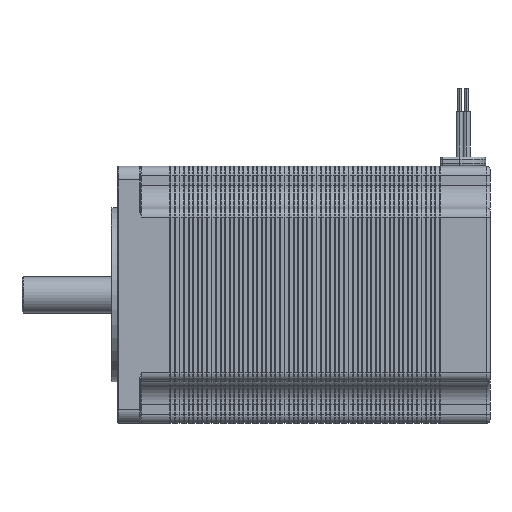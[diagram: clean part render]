
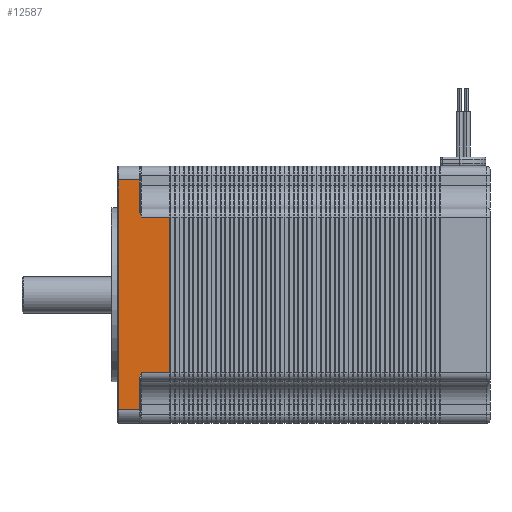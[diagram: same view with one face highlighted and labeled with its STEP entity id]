
A CAD part, left-side view. The second image highlights one B-rep face of the part: STEP entity #12587.
In plain terms, the highlighted planar face has unit normal (-1, 0, 0).
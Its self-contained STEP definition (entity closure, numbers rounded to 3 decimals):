
#138 = CARTESIAN_POINT ( 'NONE',  ( -28.15, 76.7, -18.265 ) ) ;
#2413 = CARTESIAN_POINT ( 'NONE',  ( -28.15, 76.7, -17. ) ) ;
#2839 = CARTESIAN_POINT ( 'NONE',  ( -28.15, 81.5, 17. ) ) ;
#7777 = VERTEX_POINT ( 'NONE', #59826 ) ;
#9357 = CARTESIAN_POINT ( 'NONE',  ( -28.15, 76.3, -17. ) ) ;
#11648 = LINE ( 'NONE', #2413, #194329 ) ;
#12587 = ADVANCED_FACE ( 'NONE', ( #67647 ), #117011, .F. ) ;
#15578 = B_SPLINE_CURVE_WITH_KNOTS ( 'NONE', 3,
 ( #172071, #110215, #96745, #126368, #174052, #18156 ),
 .UNSPECIFIED., .F., .F.,
 ( 4, 2, 4 ),
 ( 0., 0.001, 0.001 ),
 .UNSPECIFIED. ) ;
#18156 = CARTESIAN_POINT ( 'NONE',  ( -28.15, 76.7, 18.265 ) ) ;
#18775 = EDGE_CURVE ( 'NONE', #165746, #59274, #173441, .T. ) ;
#19254 = EDGE_CURVE ( 'NONE', #153721, #133420, #84201, .T. ) ;
#25215 = CARTESIAN_POINT ( 'NONE',  ( -28.15, 70.1, -17. ) ) ;
#25840 = ORIENTED_EDGE ( 'NONE', *, *, #131642, .T. ) ;
#26589 = VECTOR ( 'NONE', #151736, 1000. ) ;
#26686 = CARTESIAN_POINT ( 'NONE',  ( -28.15, 76.7, -25.15 ) ) ;
#37426 = LINE ( 'NONE', #89253, #148108 ) ;
#53697 = ORIENTED_EDGE ( 'NONE', *, *, #181976, .T. ) ;
#55995 = VERTEX_POINT ( 'NONE', #60160 ) ;
#56281 = CARTESIAN_POINT ( 'NONE',  ( -28.15, 76.491, -17.403 ) ) ;
#58857 = DIRECTION ( 'NONE',  ( 0., 0., -1. ) ) ;
#59274 = VERTEX_POINT ( 'NONE', #198433 ) ;
#59826 = CARTESIAN_POINT ( 'NONE',  ( -28.15, 76.7, 18.265 ) ) ;
#60160 = CARTESIAN_POINT ( 'NONE',  ( -28.15, 76.3, 17. ) ) ;
#60265 = EDGE_CURVE ( 'NONE', #165746, #89907, #169327, .T. ) ;
#62694 = CARTESIAN_POINT ( 'NONE',  ( -28.15, 70.1, -17. ) ) ;
#62985 = LINE ( 'NONE', #121638, #135176 ) ;
#67446 = ORIENTED_EDGE ( 'NONE', *, *, #71773, .T. ) ;
#67647 = FACE_OUTER_BOUND ( 'NONE', #100391, .T. ) ;
#68844 = EDGE_CURVE ( 'NONE', #55995, #133420, #185985, .T. ) ;
#69340 = CARTESIAN_POINT ( 'NONE',  ( -28.15, 81.5, -17. ) ) ;
#69829 = CARTESIAN_POINT ( 'NONE',  ( -28.15, 76.7, -18.04 ) ) ;
#70446 = VECTOR ( 'NONE', #127906, 1000. ) ;
#71773 = EDGE_CURVE ( 'NONE', #55995, #7777, #15578, .T. ) ;
#75710 = VECTOR ( 'NONE', #178475, 1000. ) ;
#77748 = ORIENTED_EDGE ( 'NONE', *, *, #179579, .T. ) ;
#78298 = DIRECTION ( 'NONE',  ( 0., 0., 1. ) ) ;
#82066 = ORIENTED_EDGE ( 'NONE', *, *, #60265, .T. ) ;
#84201 = LINE ( 'NONE', #25215, #136987 ) ;
#87790 = CARTESIAN_POINT ( 'NONE',  ( -28.15, 76.7, -17. ) ) ;
#89253 = CARTESIAN_POINT ( 'NONE',  ( -28.15, 81.3, -25.15 ) ) ;
#89907 = VERTEX_POINT ( 'NONE', #138 ) ;
#90235 = B_SPLINE_CURVE_WITH_KNOTS ( 'NONE', 3,
 ( #162527, #69829, #193377, #56281, #101389, #9357 ),
 .UNSPECIFIED., .F., .F.,
 ( 4, 2, 4 ),
 ( 0., 0.001, 0.001 ),
 .UNSPECIFIED. ) ;
#96745 = CARTESIAN_POINT ( 'NONE',  ( -28.15, 76.491, 17.403 ) ) ;
#100391 = EDGE_LOOP ( 'NONE', ( #77748, #159649, #143960, #82066, #163366, #25840, #125937, #114272, #67446, #53697 ) ) ;
#101389 = CARTESIAN_POINT ( 'NONE',  ( -28.15, 76.395, -17.201 ) ) ;
#101874 = DIRECTION ( 'NONE',  ( 0., 0., 1. ) ) ;
#102748 = DIRECTION ( 'NONE',  ( 0., 1., 0. ) ) ;
#110215 = CARTESIAN_POINT ( 'NONE',  ( -28.15, 76.395, 17.202 ) ) ;
#112005 = VERTEX_POINT ( 'NONE', #119131 ) ;
#112834 = AXIS2_PLACEMENT_3D ( 'NONE', #69340, #133839, #131211 ) ;
#114272 = ORIENTED_EDGE ( 'NONE', *, *, #68844, .F. ) ;
#114340 = CARTESIAN_POINT ( 'NONE',  ( -28.15, 70.1, 17. ) ) ;
#117011 = PLANE ( 'NONE',  #112834 ) ;
#117628 = EDGE_CURVE ( 'NONE', #89907, #147230, #90235, .T. ) ;
#119131 = CARTESIAN_POINT ( 'NONE',  ( -28.15, 76.7, 25.15 ) ) ;
#121638 = CARTESIAN_POINT ( 'NONE',  ( -28.15, 76.5, 25.15 ) ) ;
#124237 = VERTEX_POINT ( 'NONE', #195820 ) ;
#125121 = DIRECTION ( 'NONE',  ( 0., -1., 0. ) ) ;
#125937 = ORIENTED_EDGE ( 'NONE', *, *, #19254, .T. ) ;
#126368 = CARTESIAN_POINT ( 'NONE',  ( -28.15, 76.642, 17.823 ) ) ;
#127906 = DIRECTION ( 'NONE',  ( 0., -1., 0. ) ) ;
#131211 = DIRECTION ( 'NONE',  ( 0., 0., -1. ) ) ;
#131642 = EDGE_CURVE ( 'NONE', #147230, #153721, #142749, .T. ) ;
#133420 = VERTEX_POINT ( 'NONE', #114340 ) ;
#133839 = DIRECTION ( 'NONE',  ( 1., 0., 0. ) ) ;
#135176 = VECTOR ( 'NONE', #102748, 1000. ) ;
#135498 = VECTOR ( 'NONE', #125121, 1000. ) ;
#135636 = CARTESIAN_POINT ( 'NONE',  ( -28.15, 76.5, -25.15 ) ) ;
#136987 = VECTOR ( 'NONE', #101874, 1000. ) ;
#142749 = LINE ( 'NONE', #185064, #70446 ) ;
#143960 = ORIENTED_EDGE ( 'NONE', *, *, #18775, .F. ) ;
#147230 = VERTEX_POINT ( 'NONE', #176075 ) ;
#148108 = VECTOR ( 'NONE', #58857, 1000. ) ;
#151736 = DIRECTION ( 'NONE',  ( 0., 1., 0. ) ) ;
#153721 = VERTEX_POINT ( 'NONE', #62694 ) ;
#159649 = ORIENTED_EDGE ( 'NONE', *, *, #178332, .T. ) ;
#162527 = CARTESIAN_POINT ( 'NONE',  ( -28.15, 76.7, -18.265 ) ) ;
#163366 = ORIENTED_EDGE ( 'NONE', *, *, #117628, .T. ) ;
#165746 = VERTEX_POINT ( 'NONE', #26686 ) ;
#169327 = LINE ( 'NONE', #87790, #75710 ) ;
#172071 = CARTESIAN_POINT ( 'NONE',  ( -28.15, 76.3, 17. ) ) ;
#173441 = LINE ( 'NONE', #135636, #26589 ) ;
#174052 = CARTESIAN_POINT ( 'NONE',  ( -28.15, 76.7, 18.04 ) ) ;
#176075 = CARTESIAN_POINT ( 'NONE',  ( -28.15, 76.3, -17. ) ) ;
#178332 = EDGE_CURVE ( 'NONE', #124237, #59274, #37426, .T. ) ;
#178475 = DIRECTION ( 'NONE',  ( 0., 0., 1. ) ) ;
#179579 = EDGE_CURVE ( 'NONE', #112005, #124237, #62985, .T. ) ;
#181976 = EDGE_CURVE ( 'NONE', #7777, #112005, #11648, .T. ) ;
#185064 = CARTESIAN_POINT ( 'NONE',  ( -28.15, 81.5, -17. ) ) ;
#185985 = LINE ( 'NONE', #2839, #135498 ) ;
#193377 = CARTESIAN_POINT ( 'NONE',  ( -28.15, 76.642, -17.823 ) ) ;
#194329 = VECTOR ( 'NONE', #78298, 1000. ) ;
#195820 = CARTESIAN_POINT ( 'NONE',  ( -28.15, 81.3, 25.15 ) ) ;
#198433 = CARTESIAN_POINT ( 'NONE',  ( -28.15, 81.3, -25.15 ) ) ;
